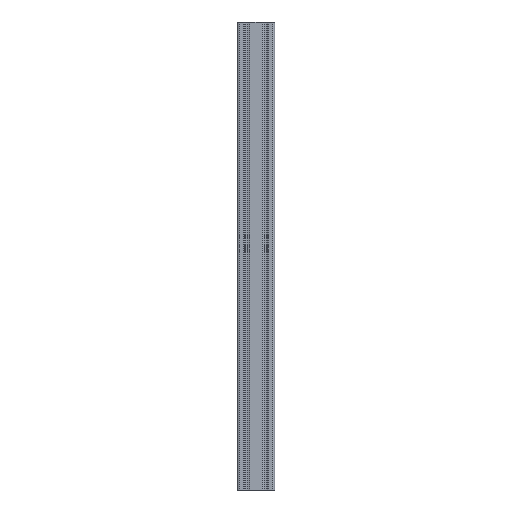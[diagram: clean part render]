
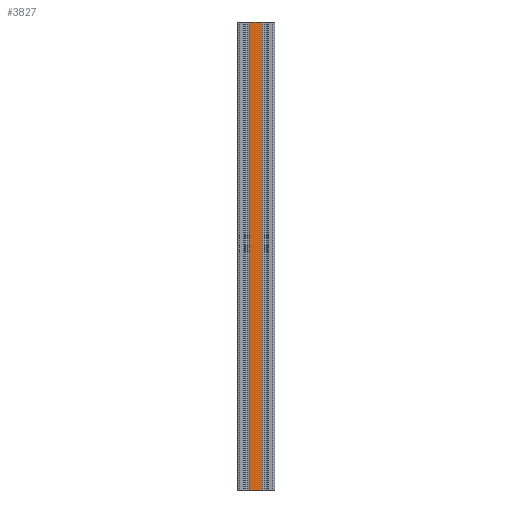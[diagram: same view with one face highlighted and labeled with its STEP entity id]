
A CAD part, front view. The second image highlights one B-rep face of the part: STEP entity #3827.
In plain terms, the highlighted planar face has unit normal (0, -1, 0).
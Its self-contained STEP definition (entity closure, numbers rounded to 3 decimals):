
#754 = DIRECTION ( 'NONE',  ( 1., 0., 0. ) ) ;
#755 = VECTOR ( 'NONE', #754, 1000. ) ;
#756 = CARTESIAN_POINT ( 'NONE',  ( -13574.628, -11311.932, 0. ) ) ;
#757 = LINE ( 'NONE', #756, #755 ) ;
#833 = CARTESIAN_POINT ( 'NONE',  ( -13561.378, -11311.932, 0. ) ) ;
#1045 = CARTESIAN_POINT ( 'NONE',  ( -13574.628, -11311.932, 0. ) ) ;
#1332 = AXIS2_PLACEMENT_3D ( 'NONE', #1350, #1336, #1540 ) ;
#1333 = DIRECTION ( 'NONE',  ( 0., 0., -1. ) ) ;
#1334 = VECTOR ( 'NONE', #1333, 1000. ) ;
#1335 = CARTESIAN_POINT ( 'NONE',  ( -13561.378, -11311.932, 500. ) ) ;
#1336 = DIRECTION ( 'NONE',  ( 0., 1., 0. ) ) ;
#1350 = CARTESIAN_POINT ( 'NONE',  ( -13574.628, -11311.932, 500. ) ) ;
#1353 = LINE ( 'NONE', #1335, #1334 ) ;
#1403 = DIRECTION ( 'NONE',  ( 0., 0., -1. ) ) ;
#1404 = VECTOR ( 'NONE', #1403, 1000. ) ;
#1405 = CARTESIAN_POINT ( 'NONE',  ( -13574.628, -11311.932, 500. ) ) ;
#1408 = LINE ( 'NONE', #1405, #1404 ) ;
#1540 = DIRECTION ( 'NONE',  ( -1., 0., 0. ) ) ;
#1555 = FACE_OUTER_BOUND ( 'NONE', #3822, .T. ) ;
#1557 = PLANE ( 'NONE',  #1332 ) ;
#2084 = VERTEX_POINT ( 'NONE', #833 ) ;
#2087 = EDGE_CURVE ( 'NONE', #2254, #2084, #757, .T. ) ;
#2254 = VERTEX_POINT ( 'NONE', #1045 ) ;
#3765 = EDGE_CURVE ( 'NONE', #5640, #2254, #1408, .T. ) ;
#3822 = EDGE_LOOP ( 'NONE', ( #3828, #3826, #3831, #3830 ) ) ;
#3825 = EDGE_CURVE ( 'NONE', #5560, #2084, #1353, .T. ) ;
#3826 = ORIENTED_EDGE ( 'NONE', *, *, #3825, .F. ) ;
#3827 = ADVANCED_FACE ( 'NONE', ( #1555 ), #1557, .F. ) ;
#3828 = ORIENTED_EDGE ( 'NONE', *, *, #2087, .T. ) ;
#3830 = ORIENTED_EDGE ( 'NONE', *, *, #3765, .T. ) ;
#3831 = ORIENTED_EDGE ( 'NONE', *, *, #5570, .F. ) ;
#5054 = CARTESIAN_POINT ( 'NONE',  ( -13574.628, -11311.932, 500. ) ) ;
#5107 = VECTOR ( 'NONE', #5126, 1000. ) ;
#5108 = LINE ( 'NONE', #5054, #5107 ) ;
#5126 = DIRECTION ( 'NONE',  ( 1., 0., 0. ) ) ;
#5135 = CARTESIAN_POINT ( 'NONE',  ( -13561.378, -11311.932, 500. ) ) ;
#5376 = CARTESIAN_POINT ( 'NONE',  ( -13574.628, -11311.932, 500. ) ) ;
#5560 = VERTEX_POINT ( 'NONE', #5135 ) ;
#5570 = EDGE_CURVE ( 'NONE', #5640, #5560, #5108, .T. ) ;
#5640 = VERTEX_POINT ( 'NONE', #5376 ) ;
